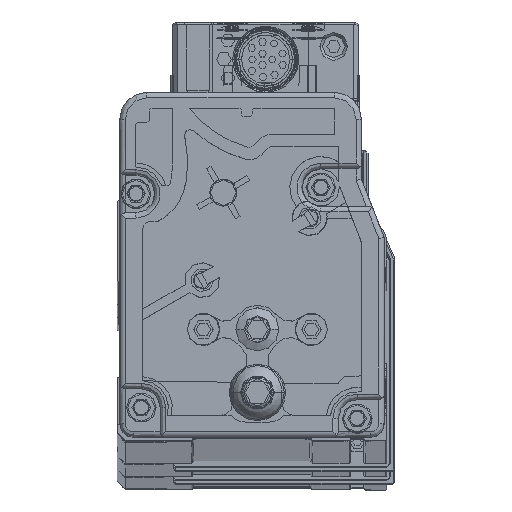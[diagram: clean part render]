
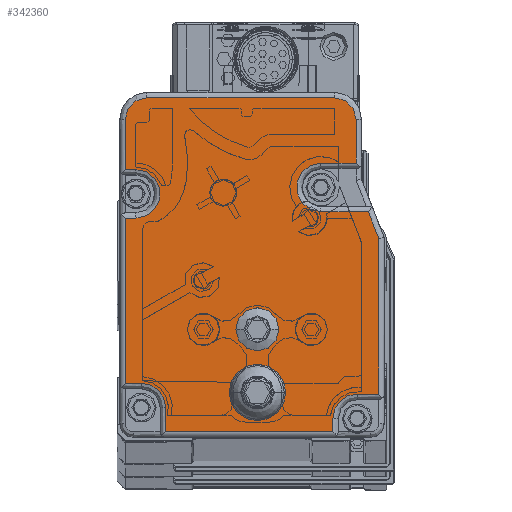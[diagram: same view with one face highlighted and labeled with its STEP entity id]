
A CAD part, top view. The second image highlights one B-rep face of the part: STEP entity #342360.
In plain terms, the highlighted planar face has unit normal (0, 0, 1).
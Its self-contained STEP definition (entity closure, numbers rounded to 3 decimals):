
#340250=CARTESIAN_POINT('',(-20.265,1.758,
3572.39));
#340260=DIRECTION('',(0.,0.,-1.));
#340270=DIRECTION('',(-1.,0.,0.));
#340280=AXIS2_PLACEMENT_3D('',#340250,#340260,#340270);
#340290=PLANE('',#340280);
#340300=CARTESIAN_POINT('',(-44.056,10.421,
3572.39));
#340310=DIRECTION('',(0.,0.,-1.));
#340320=DIRECTION('',(-1.,0.,0.));
#340330=AXIS2_PLACEMENT_3D('',#340300,#340310,#340320);
#340340=CIRCLE('',#340330,5.);
#340350=CARTESIAN_POINT('',(-49.056,10.421,
3572.39));
#340360=VERTEX_POINT('',#340350);
#340370=CARTESIAN_POINT('',(-39.056,10.421,
3572.39));
#340380=VERTEX_POINT('',#340370);
#340390=EDGE_CURVE('',#340360,#340380,#340340,.T.);
#340400=ORIENTED_EDGE('',*,*,#340390,.T.);
#340410=EDGE_CURVE('',#340380,#340360,#340340,.T.);
#340420=ORIENTED_EDGE('',*,*,#340410,.T.);
#340430=EDGE_LOOP('',(#340420,#340400));
#340440=FACE_BOUND('',#340430,.T.);
#340450=CARTESIAN_POINT('',(-44.059,22.124,
3572.39));
#340460=DIRECTION('',(0.,0.,1.));
#340470=DIRECTION('',(-1.,0.,0.));
#340480=AXIS2_PLACEMENT_3D('',#340450,#340460,#340470);
#340490=CIRCLE('',#340480,4.);
#340500=CARTESIAN_POINT('',(-40.059,22.124,
3572.39));
#340510=VERTEX_POINT('',#340500);
#340520=CARTESIAN_POINT('',(-48.059,22.124,
3572.39));
#340530=VERTEX_POINT('',#340520);
#340540=EDGE_CURVE('',#340510,#340530,#340490,.T.);
#340550=ORIENTED_EDGE('',*,*,#340540,.F.);
#340560=EDGE_CURVE('',#340530,#340510,#340490,.T.);
#340570=ORIENTED_EDGE('',*,*,#340560,.F.);
#340580=EDGE_LOOP('',(#340570,#340550));
#340590=FACE_BOUND('',#340580,.T.);
#340600=CARTESIAN_POINT('',(-61.059,2.124,
3572.39));
#340610=DIRECTION('',(0.,-1.,0.));
#340620=VECTOR('',#340610,1.);
#340630=LINE('',#340600,#340620);
#340640=CARTESIAN_POINT('',(-61.059,7.624,
3572.39));
#340650=VERTEX_POINT('',#340640);
#340660=CARTESIAN_POINT('',(-61.059,3.124,
3572.39));
#340670=VERTEX_POINT('',#340660);
#340680=EDGE_CURVE('',#340650,#340670,#340630,.T.);
#340690=ORIENTED_EDGE('',*,*,#340680,.T.);
#340700=CARTESIAN_POINT('',(-65.559,7.624,
3572.39));
#340710=DIRECTION('',(0.,0.,-1.));
#340720=DIRECTION('',(-1.,0.,0.));
#340730=AXIS2_PLACEMENT_3D('',#340700,#340710,#340720);
#340740=CIRCLE('',#340730,4.5);
#340750=CARTESIAN_POINT('',(-65.559,12.124,
3572.39));
#340760=VERTEX_POINT('',#340750);
#340770=EDGE_CURVE('',#340760,#340650,#340740,.T.);
#340780=ORIENTED_EDGE('',*,*,#340770,.T.);
#340790=CARTESIAN_POINT('',(-20.559,12.124,
3572.39));
#340800=DIRECTION('',(1.,0.,0.));
#340810=VECTOR('',#340800,1.);
#340820=LINE('',#340790,#340810);
#340830=CARTESIAN_POINT('',(-68.559,12.124,
3572.39));
#340840=VERTEX_POINT('',#340830);
#340850=EDGE_CURVE('',#340840,#340760,#340820,.T.);
#340860=ORIENTED_EDGE('',*,*,#340850,.T.);
#340870=CARTESIAN_POINT('',(-68.559,2.124,
3572.39));
#340880=DIRECTION('',(0.,-1.,0.));
#340890=VECTOR('',#340880,1.);
#340900=LINE('',#340870,#340890);
#340910=CARTESIAN_POINT('',(-68.559,42.727,
3572.39));
#340920=VERTEX_POINT('',#340910);
#340930=EDGE_CURVE('',#340920,#340840,#340900,.T.);
#340940=ORIENTED_EDGE('',*,*,#340930,.T.);
#340950=CARTESIAN_POINT('',(-20.559,42.727,
3572.39));
#340960=DIRECTION('',(-1.,0.,0.));
#340970=VECTOR('',#340960,1.);
#340980=LINE('',#340950,#340970);
#340990=CARTESIAN_POINT('',(-66.559,42.727,
3572.39));
#341000=VERTEX_POINT('',#340990);
#341010=EDGE_CURVE('',#341000,#340920,#340980,.T.);
#341020=ORIENTED_EDGE('',*,*,#341010,.T.);
#341030=CARTESIAN_POINT('',(-66.559,47.227,
3572.39));
#341040=DIRECTION('',(0.,0.,-1.));
#341050=DIRECTION('',(-1.,0.,0.));
#341060=AXIS2_PLACEMENT_3D('',#341030,#341040,#341050);
#341070=CIRCLE('',#341060,4.5);
#341080=CARTESIAN_POINT('',(-66.559,51.727,
3572.39));
#341090=VERTEX_POINT('',#341080);
#341100=EDGE_CURVE('',#341090,#341000,#341070,.T.);
#341110=ORIENTED_EDGE('',*,*,#341100,.T.);
#341120=CARTESIAN_POINT('',(-20.559,51.727,
3572.39));
#341130=DIRECTION('',(1.,0.,0.));
#341140=VECTOR('',#341130,1.);
#341150=LINE('',#341120,#341140);
#341160=CARTESIAN_POINT('',(-68.559,51.727,
3572.39));
#341170=VERTEX_POINT('',#341160);
#341180=EDGE_CURVE('',#341170,#341090,#341150,.T.);
#341190=ORIENTED_EDGE('',*,*,#341180,.T.);
#341200=CARTESIAN_POINT('',(-68.559,2.124,
3572.39));
#341210=DIRECTION('',(0.,-1.,0.));
#341220=VECTOR('',#341210,1.);
#341230=LINE('',#341200,#341220);
#341240=CARTESIAN_POINT('',(-68.559,61.024,
3572.39));
#341250=VERTEX_POINT('',#341240);
#341260=EDGE_CURVE('',#341250,#341170,#341230,.T.);
#341270=ORIENTED_EDGE('',*,*,#341260,.T.);
#341280=CARTESIAN_POINT('',(-64.559,61.024,
3572.39));
#341290=DIRECTION('',(0.,0.,1.));
#341300=DIRECTION('',(1.,0.,0.));
#341310=AXIS2_PLACEMENT_3D('',#341280,#341290,#341300);
#341320=CIRCLE('',#341310,4.);
#341330=CARTESIAN_POINT('',(-64.559,65.024,
3572.39));
#341340=VERTEX_POINT('',#341330);
#341350=EDGE_CURVE('',#341340,#341250,#341320,.T.);
#341360=ORIENTED_EDGE('',*,*,#341350,.T.);
#341370=CARTESIAN_POINT('',(-20.559,65.024,
3572.39));
#341380=DIRECTION('',(-1.,0.,0.));
#341390=VECTOR('',#341380,1.);
#341400=LINE('',#341370,#341390);
#341410=CARTESIAN_POINT('',(-29.759,65.024,
3572.39));
#341420=VERTEX_POINT('',#341410);
#341430=EDGE_CURVE('',#341420,#341340,#341400,.T.);
#341440=ORIENTED_EDGE('',*,*,#341430,.T.);
#341450=CARTESIAN_POINT('',(-29.759,61.024,
3572.39));
#341460=DIRECTION('',(0.,0.,1.));
#341470=DIRECTION('',(1.,0.,0.));
#341480=AXIS2_PLACEMENT_3D('',#341450,#341460,#341470);
#341490=CIRCLE('',#341480,4.);
#341500=CARTESIAN_POINT('',(-25.759,61.024,
3572.39));
#341510=VERTEX_POINT('',#341500);
#341520=EDGE_CURVE('',#341510,#341420,#341490,.T.);
#341530=ORIENTED_EDGE('',*,*,#341520,.T.);
#341540=CARTESIAN_POINT('',(-25.759,2.124,
3572.39));
#341550=DIRECTION('',(0.,1.,0.));
#341560=VECTOR('',#341550,1.);
#341570=LINE('',#341540,#341560);
#341580=CARTESIAN_POINT('',(-25.759,52.924,
3572.39));
#341590=VERTEX_POINT('',#341580);
#341600=EDGE_CURVE('',#341590,#341510,#341570,.T.);
#341610=ORIENTED_EDGE('',*,*,#341600,.T.);
#341620=CARTESIAN_POINT('',(-20.559,52.924,
3572.39));
#341630=DIRECTION('',(-1.,0.,0.));
#341640=VECTOR('',#341630,1.);
#341650=LINE('',#341620,#341640);
#341660=CARTESIAN_POINT('',(-32.309,52.924,
3572.39));
#341670=VERTEX_POINT('',#341660);
#341680=EDGE_CURVE('',#341590,#341670,#341650,.T.);
#341690=ORIENTED_EDGE('',*,*,#341680,.F.);
#341700=CARTESIAN_POINT('',(-32.309,48.424,
3572.39));
#341710=DIRECTION('',(0.,0.,-1.));
#341720=DIRECTION('',(-1.,0.,0.));
#341730=AXIS2_PLACEMENT_3D('',#341700,#341710,#341720);
#341740=CIRCLE('',#341730,4.5);
#341750=CARTESIAN_POINT('',(-32.309,43.924,
3572.39));
#341760=VERTEX_POINT('',#341750);
#341770=EDGE_CURVE('',#341760,#341670,#341740,.T.);
#341780=ORIENTED_EDGE('',*,*,#341770,.T.);
#341790=CARTESIAN_POINT('',(-20.559,43.924,
3572.39));
#341800=DIRECTION('',(-1.,0.,0.));
#341810=VECTOR('',#341800,1.);
#341820=LINE('',#341790,#341810);
#341830=CARTESIAN_POINT('',(-23.499,43.924,
3572.39));
#341840=VERTEX_POINT('',#341830);
#341850=EDGE_CURVE('',#341840,#341760,#341820,.T.);
#341860=ORIENTED_EDGE('',*,*,#341850,.T.);
#341870=CARTESIAN_POINT('',(-7.243,2.124,
3572.39));
#341880=DIRECTION('',(0.362,-0.932,0.));
#341890=VECTOR('',#341880,1.);
#341900=LINE('',#341870,#341890);
#341910=CARTESIAN_POINT('',(-21.559,38.937,
3572.39));
#341920=VERTEX_POINT('',#341910);
#341930=EDGE_CURVE('',#341840,#341920,#341900,.T.);
#341940=ORIENTED_EDGE('',*,*,#341930,.F.);
#341950=CARTESIAN_POINT('',(-21.559,2.124,
3572.39));
#341960=DIRECTION('',(0.,-1.,0.));
#341970=VECTOR('',#341960,1.);
#341980=LINE('',#341950,#341970);
#341990=CARTESIAN_POINT('',(-21.559,10.124,
3572.39));
#342000=VERTEX_POINT('',#341990);
#342010=EDGE_CURVE('',#341920,#342000,#341980,.T.);
#342020=ORIENTED_EDGE('',*,*,#342010,.F.);
#342030=CARTESIAN_POINT('',(-20.559,10.124,
3572.39));
#342040=DIRECTION('',(1.,0.,0.));
#342050=VECTOR('',#342040,1.);
#342060=LINE('',#342030,#342050);
#342070=CARTESIAN_POINT('',(-25.559,10.124,
3572.39));
#342080=VERTEX_POINT('',#342070);
#342090=EDGE_CURVE('',#342080,#342000,#342060,.T.);
#342100=ORIENTED_EDGE('',*,*,#342090,.T.);
#342110=CARTESIAN_POINT('',(-25.559,5.624,
3572.39));
#342120=DIRECTION('',(0.,0.,-1.));
#342130=DIRECTION('',(-1.,0.,0.));
#342140=AXIS2_PLACEMENT_3D('',#342110,#342120,#342130);
#342150=CIRCLE('',#342140,4.5);
#342160=CARTESIAN_POINT('',(-30.059,5.624,
3572.39));
#342170=VERTEX_POINT('',#342160);
#342180=EDGE_CURVE('',#342170,#342080,#342150,.T.);
#342190=ORIENTED_EDGE('',*,*,#342180,.T.);
#342200=CARTESIAN_POINT('',(-30.059,2.124,
3572.39));
#342210=DIRECTION('',(0.,1.,0.));
#342220=VECTOR('',#342210,1.);
#342230=LINE('',#342200,#342220);
#342240=CARTESIAN_POINT('',(-30.059,3.124,
3572.39));
#342250=VERTEX_POINT('',#342240);
#342260=EDGE_CURVE('',#342250,#342170,#342230,.T.);
#342270=ORIENTED_EDGE('',*,*,#342260,.T.);
#342280=CARTESIAN_POINT('',(-20.559,3.124,
3572.39));
#342290=DIRECTION('',(-1.,0.,0.));
#342300=VECTOR('',#342290,1.);
#342310=LINE('',#342280,#342300);
#342320=EDGE_CURVE('',#342250,#340670,#342310,.T.);
#342330=ORIENTED_EDGE('',*,*,#342320,.F.);
#342340=EDGE_LOOP('',(#342330,#342270,#342190,#342100,#342020,#341940,
#341860,#341780,#341690,#341610,#341530,#341440,#341360,#341270,#341190,
#341110,#341020,#340940,#340860,#340780,#340690));
#342350=FACE_OUTER_BOUND('',#342340,.T.);
#342360=ADVANCED_FACE('',(#340440,#340590,#342350),#340290,.F.);
